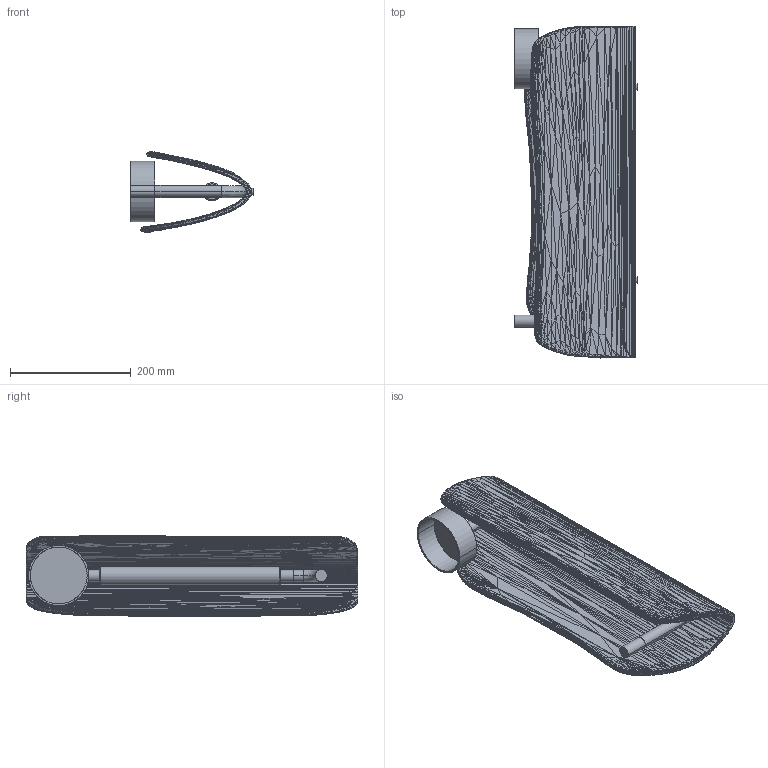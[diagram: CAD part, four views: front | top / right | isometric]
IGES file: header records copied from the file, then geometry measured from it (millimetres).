
Start section: SolidWorks IGES file using analytic representation for surfaces
Global section: file name: C:\Users\adrian\Desktop\Nueva Colección Enero 2026\3D\drive-download-20251230T145340Z-1-001\LIDA\A1357.IGS; native system: SolidWorks 2023; preprocessor: SolidWorks 2023; author: adrian; date: 251230.164428; units: millimetre
Bounding box: 202.63 x 549.59 x 132.62 mm (x, y, z)
Surface area: 528588.2 mm2 (no closed solid volume)
Topology: 0 solids, 0 shells, 7448 faces, 23330 edges, 23330 vertices
Faces by surface type: bspline 7411, revolution 37
